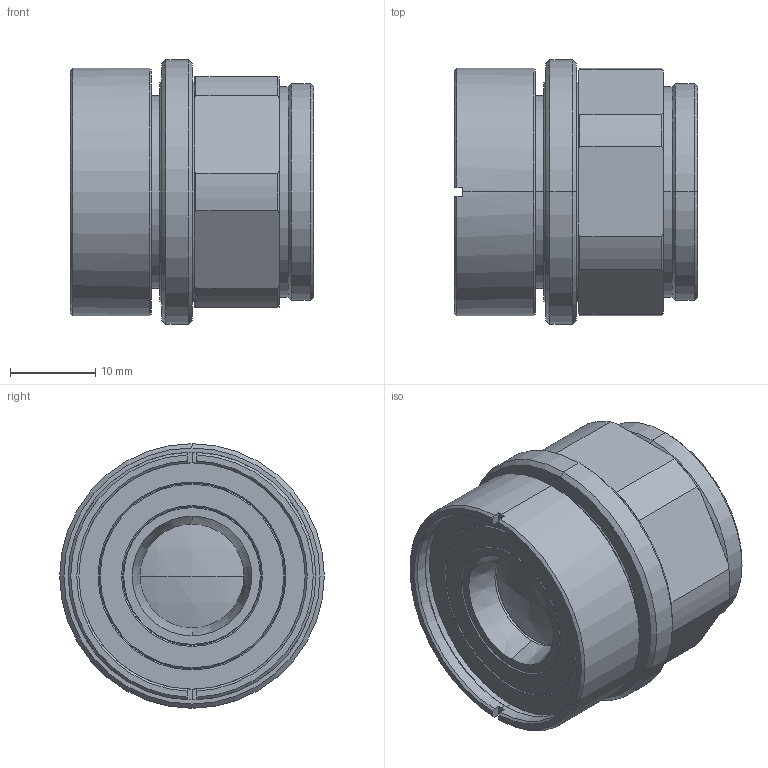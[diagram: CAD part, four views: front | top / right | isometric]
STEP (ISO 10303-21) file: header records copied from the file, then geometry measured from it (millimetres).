
FILE_DESCRIPTION (( 'STEP AP203' ), '1' );
FILE_NAME ('VS-MCA20.STEP', '2017-08-28T08:11:31', ( '' ), ( '' ), 'SwSTEP 2.0', 'SolidWorks 2017', '' );
FILE_SCHEMA (( 'CONFIG_CONTROL_DESIGN' ));
Length unit declared in the file: millimetre
Products named in the file (1): VS-MCA20
Bounding box: 28.5 x 31 x 31 mm (x, y, z)
Volume: 14667.3 mm3; surface area: 5325.8 mm2
Topology: 1 solids, 1 shells, 130 faces, 296 edges, 182 vertices
Faces by surface type: cone 68, plane 30, cylinder 28, sphere 4
Entity records: 3769 total; most frequent: CARTESIAN_POINT 705, DIRECTION 674, ORIENTED_EDGE 592, EDGE_CURVE 296, AXIS2_PLACEMENT_3D 279, VERTEX_POINT 182, CIRCLE 148, EDGE_LOOP 144
